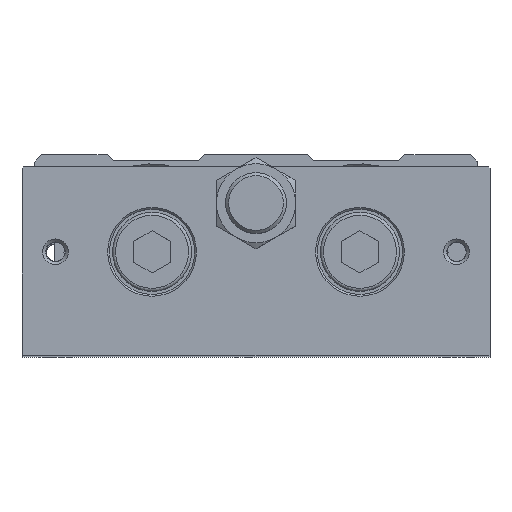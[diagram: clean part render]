
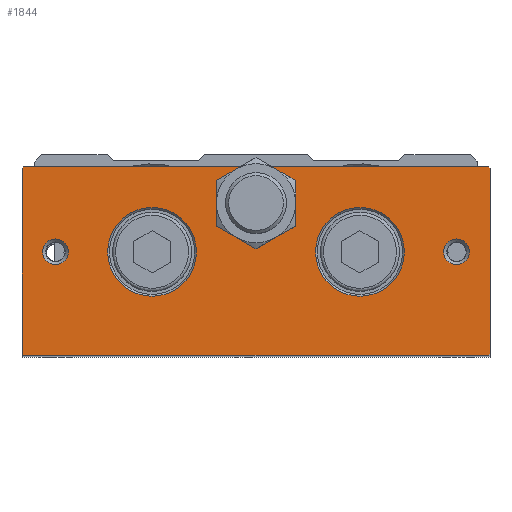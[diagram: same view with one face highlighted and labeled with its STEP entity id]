
A CAD part, top view. The second image highlights one B-rep face of the part: STEP entity #1844.
In plain terms, the highlighted planar face has unit normal (0, 0, 1).
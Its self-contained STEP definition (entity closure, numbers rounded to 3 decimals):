
#1642=CARTESIAN_POINT('',(-38.2,-17.5,129.0));
#1643=VERTEX_POINT('',#1642);
#1650=CARTESIAN_POINT('',(-38.5,-17.2,129.0));
#1651=VERTEX_POINT('',#1650);
#1652=CARTESIAN_POINT('',(-38.2,-17.5,129.0));
#1653=DIRECTION('',(-0.707,0.707,0.0));
#1654=VECTOR('',#1653,0.424);
#1655=LINE('',#1652,#1654);
#1656=EDGE_CURVE('',#1643,#1651,#1655,.T.);
#1667=CARTESIAN_POINT('',(0.0,-17.5,129.0));
#1668=DIRECTION('',(0.0,0.0,1.0));
#1669=DIRECTION('',(1.0,0.0,0.0));
#1670=AXIS2_PLACEMENT_3D('',#1667,#1668,#1669);
#1671=PLANE('',#1670);
#1672=ORIENTED_EDGE('',*,*,#1656,.F.);
#1673=CARTESIAN_POINT('',(38.2,-17.5,129.0));
#1674=VERTEX_POINT('',#1673);
#1675=CARTESIAN_POINT('',(-38.2,-17.5,129.0));
#1676=DIRECTION('',(1.0,0.0,0.0));
#1677=VECTOR('',#1676,76.4);
#1678=LINE('',#1675,#1677);
#1679=EDGE_CURVE('',#1643,#1674,#1678,.T.);
#1680=ORIENTED_EDGE('',*,*,#1679,.T.);
#1681=CARTESIAN_POINT('',(38.5,-17.2,129.0));
#1682=VERTEX_POINT('',#1681);
#1683=CARTESIAN_POINT('',(38.5,-17.2,129.0));
#1684=DIRECTION('',(-0.707,-0.707,0.0));
#1685=VECTOR('',#1684,0.424);
#1686=LINE('',#1683,#1685);
#1687=EDGE_CURVE('',#1682,#1674,#1686,.T.);
#1688=ORIENTED_EDGE('',*,*,#1687,.F.);
#1689=CARTESIAN_POINT('',(38.5,13.2,129.0));
#1690=VERTEX_POINT('',#1689);
#1691=CARTESIAN_POINT('',(38.5,-17.2,129.0));
#1692=DIRECTION('',(0.0,1.0,0.0));
#1693=VECTOR('',#1692,30.4);
#1694=LINE('',#1691,#1693);
#1695=EDGE_CURVE('',#1682,#1690,#1694,.T.);
#1696=ORIENTED_EDGE('',*,*,#1695,.T.);
#1697=CARTESIAN_POINT('',(38.2,13.5,129.0));
#1698=VERTEX_POINT('',#1697);
#1699=CARTESIAN_POINT('',(38.2,13.5,129.0));
#1700=DIRECTION('',(0.707,-0.707,0.0));
#1701=VECTOR('',#1700,0.424);
#1702=LINE('',#1699,#1701);
#1703=EDGE_CURVE('',#1698,#1690,#1702,.T.);
#1704=ORIENTED_EDGE('',*,*,#1703,.F.);
#1705=CARTESIAN_POINT('',(2.5,13.5,129.0));
#1706=VERTEX_POINT('',#1705);
#1707=CARTESIAN_POINT('',(38.2,13.5,129.0));
#1708=DIRECTION('',(-1.0,0.0,0.0));
#1709=VECTOR('',#1708,35.7);
#1710=LINE('',#1707,#1709);
#1711=EDGE_CURVE('',#1698,#1706,#1710,.T.);
#1712=ORIENTED_EDGE('',*,*,#1711,.T.);
#1713=CARTESIAN_POINT('',(3.25,13.129,129.0));
#1714=VERTEX_POINT('',#1713);
#1715=CARTESIAN_POINT('',(0.0,7.5,129.0));
#1716=DIRECTION('',(0.0,0.0,1.0));
#1717=DIRECTION('',(0.0,1.0,0.0));
#1718=AXIS2_PLACEMENT_3D('',#1715,#1716,#1717);
#1719=CIRCLE('',#1718,6.5);
#1720=EDGE_CURVE('',#1714,#1706,#1719,.T.);
#1721=ORIENTED_EDGE('',*,*,#1720,.F.);
#1722=CARTESIAN_POINT('',(6.5,7.5,129.0));
#1723=VERTEX_POINT('',#1722);
#1724=CARTESIAN_POINT('',(0.0,7.5,129.0));
#1725=DIRECTION('',(0.0,0.0,1.0));
#1726=DIRECTION('',(0.0,1.0,0.0));
#1727=AXIS2_PLACEMENT_3D('',#1724,#1725,#1726);
#1728=CIRCLE('',#1727,6.5);
#1729=EDGE_CURVE('',#1723,#1714,#1728,.T.);
#1730=ORIENTED_EDGE('',*,*,#1729,.F.);
#1731=CARTESIAN_POINT('',(3.25,1.871,129.0));
#1732=VERTEX_POINT('',#1731);
#1733=CARTESIAN_POINT('',(0.0,7.5,129.0));
#1734=DIRECTION('',(0.0,0.0,1.0));
#1735=DIRECTION('',(0.0,1.0,0.0));
#1736=AXIS2_PLACEMENT_3D('',#1733,#1734,#1735);
#1737=CIRCLE('',#1736,6.5);
#1738=EDGE_CURVE('',#1732,#1723,#1737,.T.);
#1739=ORIENTED_EDGE('',*,*,#1738,.F.);
#1740=CARTESIAN_POINT('',(-3.25,1.871,129.0));
#1741=VERTEX_POINT('',#1740);
#1742=CARTESIAN_POINT('',(0.0,7.5,129.0));
#1743=DIRECTION('',(0.0,0.0,1.0));
#1744=DIRECTION('',(0.0,1.0,0.0));
#1745=AXIS2_PLACEMENT_3D('',#1742,#1743,#1744);
#1746=CIRCLE('',#1745,6.5);
#1747=EDGE_CURVE('',#1741,#1732,#1746,.T.);
#1748=ORIENTED_EDGE('',*,*,#1747,.F.);
#1749=CARTESIAN_POINT('',(-6.5,7.5,129.0));
#1750=VERTEX_POINT('',#1749);
#1751=CARTESIAN_POINT('',(0.0,7.5,129.0));
#1752=DIRECTION('',(0.0,0.0,1.0));
#1753=DIRECTION('',(0.0,1.0,0.0));
#1754=AXIS2_PLACEMENT_3D('',#1751,#1752,#1753);
#1755=CIRCLE('',#1754,6.5);
#1756=EDGE_CURVE('',#1750,#1741,#1755,.T.);
#1757=ORIENTED_EDGE('',*,*,#1756,.F.);
#1758=CARTESIAN_POINT('',(-3.25,13.129,129.0));
#1759=VERTEX_POINT('',#1758);
#1760=CARTESIAN_POINT('',(0.0,7.5,129.0));
#1761=DIRECTION('',(0.0,0.0,1.0));
#1762=DIRECTION('',(0.0,1.0,0.0));
#1763=AXIS2_PLACEMENT_3D('',#1760,#1761,#1762);
#1764=CIRCLE('',#1763,6.5);
#1765=EDGE_CURVE('',#1759,#1750,#1764,.T.);
#1766=ORIENTED_EDGE('',*,*,#1765,.F.);
#1767=CARTESIAN_POINT('',(-2.5,13.5,129.0));
#1768=VERTEX_POINT('',#1767);
#1769=CARTESIAN_POINT('',(0.0,7.5,129.0));
#1770=DIRECTION('',(0.0,0.0,1.0));
#1771=DIRECTION('',(0.0,1.0,0.0));
#1772=AXIS2_PLACEMENT_3D('',#1769,#1770,#1771);
#1773=CIRCLE('',#1772,6.5);
#1774=EDGE_CURVE('',#1768,#1759,#1773,.T.);
#1775=ORIENTED_EDGE('',*,*,#1774,.F.);
#1776=CARTESIAN_POINT('',(-38.2,13.5,129.0));
#1777=VERTEX_POINT('',#1776);
#1778=CARTESIAN_POINT('',(-2.5,13.5,129.0));
#1779=DIRECTION('',(-1.0,0.0,0.0));
#1780=VECTOR('',#1779,35.7);
#1781=LINE('',#1778,#1780);
#1782=EDGE_CURVE('',#1768,#1777,#1781,.T.);
#1783=ORIENTED_EDGE('',*,*,#1782,.T.);
#1784=CARTESIAN_POINT('',(-38.5,13.2,129.0));
#1785=VERTEX_POINT('',#1784);
#1786=CARTESIAN_POINT('',(-38.5,13.2,129.0));
#1787=DIRECTION('',(0.707,0.707,0.0));
#1788=VECTOR('',#1787,0.424);
#1789=LINE('',#1786,#1788);
#1790=EDGE_CURVE('',#1785,#1777,#1789,.T.);
#1791=ORIENTED_EDGE('',*,*,#1790,.F.);
#1792=CARTESIAN_POINT('',(-38.5,13.2,129.0));
#1793=DIRECTION('',(0.0,-1.0,0.0));
#1794=VECTOR('',#1793,30.4);
#1795=LINE('',#1792,#1794);
#1796=EDGE_CURVE('',#1785,#1651,#1795,.T.);
#1797=ORIENTED_EDGE('',*,*,#1796,.T.);
#1798=EDGE_LOOP('',(#1672,#1680,#1688,#1696,#1704,#1712,#1721,#1730,#1739,#1748,#1757,#1766,#1775,#1783,#1791,#1797));
#1799=FACE_OUTER_BOUND('',#1798,.T.);
#1800=CARTESIAN_POINT('',(-9.8,-0.5,129.0));
#1801=VERTEX_POINT('',#1800);
#1802=CARTESIAN_POINT('',(-17.1,-0.5,129.0));
#1803=DIRECTION('',(0.0,0.0,1.0));
#1804=DIRECTION('',(-1.0,0.0,0.0));
#1805=AXIS2_PLACEMENT_3D('',#1802,#1803,#1804);
#1806=CIRCLE('',#1805,7.3);
#1807=EDGE_CURVE('',#1801,#1801,#1806,.T.);
#1808=ORIENTED_EDGE('',*,*,#1807,.F.);
#1809=EDGE_LOOP('',(#1808));
#1810=FACE_BOUND('',#1809,.T.);
#1811=CARTESIAN_POINT('',(35.121,-0.5,129.0));
#1812=VERTEX_POINT('',#1811);
#1813=CARTESIAN_POINT('',(33.0,-0.5,129.0));
#1814=DIRECTION('',(0.0,0.0,1.0));
#1815=DIRECTION('',(-1.0,0.0,0.0));
#1816=AXIS2_PLACEMENT_3D('',#1813,#1814,#1815);
#1817=CIRCLE('',#1816,2.121);
#1818=EDGE_CURVE('',#1812,#1812,#1817,.T.);
#1819=ORIENTED_EDGE('',*,*,#1818,.F.);
#1820=EDGE_LOOP('',(#1819));
#1821=FACE_BOUND('',#1820,.T.);
#1822=CARTESIAN_POINT('',(-30.879,-0.5,129.0));
#1823=VERTEX_POINT('',#1822);
#1824=CARTESIAN_POINT('',(-33.0,-0.5,129.0));
#1825=DIRECTION('',(0.0,0.0,1.0));
#1826=DIRECTION('',(-1.0,0.0,0.0));
#1827=AXIS2_PLACEMENT_3D('',#1824,#1825,#1826);
#1828=CIRCLE('',#1827,2.121);
#1829=EDGE_CURVE('',#1823,#1823,#1828,.T.);
#1830=ORIENTED_EDGE('',*,*,#1829,.F.);
#1831=EDGE_LOOP('',(#1830));
#1832=FACE_BOUND('',#1831,.T.);
#1833=CARTESIAN_POINT('',(24.4,-0.5,129.0));
#1834=VERTEX_POINT('',#1833);
#1835=CARTESIAN_POINT('',(17.1,-0.5,129.0));
#1836=DIRECTION('',(0.0,0.0,1.0));
#1837=DIRECTION('',(-1.0,0.0,0.0));
#1838=AXIS2_PLACEMENT_3D('',#1835,#1836,#1837);
#1839=CIRCLE('',#1838,7.3);
#1840=EDGE_CURVE('',#1834,#1834,#1839,.T.);
#1841=ORIENTED_EDGE('',*,*,#1840,.F.);
#1842=EDGE_LOOP('',(#1841));
#1843=FACE_BOUND('',#1842,.T.);
#1844=ADVANCED_FACE('',(#1799,#1810,#1821,#1832,#1843),#1671,.T.);
